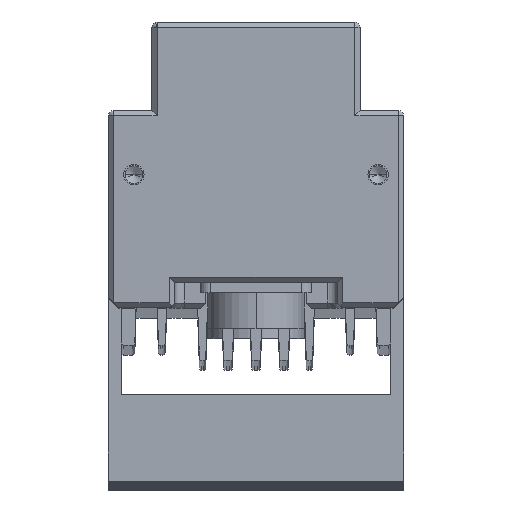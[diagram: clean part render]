
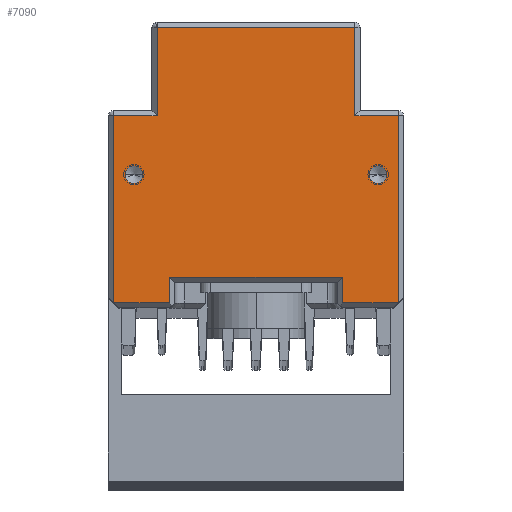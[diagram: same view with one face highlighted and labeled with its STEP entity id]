
A CAD part, top view. The second image highlights one B-rep face of the part: STEP entity #7090.
In plain terms, the highlighted planar face has unit normal (0, 0, 1).
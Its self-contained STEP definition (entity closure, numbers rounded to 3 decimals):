
#761=DIRECTION('',(1.,0.,0.));
#762=VECTOR('',#761,11.);
#763=CARTESIAN_POINT('',(-28.,-9.406,585.));
#764=LINE('',#763,#762);
#765=DIRECTION('',(0.,-1.,0.));
#766=VECTOR('',#765,36.8);
#767=CARTESIAN_POINT('',(-28.,27.394,585.));
#768=LINE('',#767,#766);
#769=DIRECTION('',(-1.,0.,0.));
#770=VECTOR('',#769,8.55);
#771=CARTESIAN_POINT('',(-19.45,27.394,585.));
#772=LINE('',#771,#770);
#773=DIRECTION('',(0.,-1.,0.));
#774=VECTOR('',#773,17.4);
#775=CARTESIAN_POINT('',(-19.45,44.794,585.));
#776=LINE('',#775,#774);
#777=DIRECTION('',(-1.,0.,0.));
#778=VECTOR('',#777,38.899);
#779=CARTESIAN_POINT('',(19.45,44.794,585.));
#780=LINE('',#779,#778);
#781=DIRECTION('',(0.,1.,0.));
#782=VECTOR('',#781,17.4);
#783=CARTESIAN_POINT('',(19.45,27.394,585.));
#784=LINE('',#783,#782);
#785=DIRECTION('',(-1.,0.,0.));
#786=VECTOR('',#785,8.55);
#787=CARTESIAN_POINT('',(28.,27.394,585.));
#788=LINE('',#787,#786);
#789=DIRECTION('',(0.,1.,0.));
#790=VECTOR('',#789,36.8);
#791=CARTESIAN_POINT('',(28.,-9.406,585.));
#792=LINE('',#791,#790);
#793=DIRECTION('',(1.,0.,0.));
#794=VECTOR('',#793,11.);
#795=CARTESIAN_POINT('',(17.,-9.406,585.));
#796=LINE('',#795,#794);
#797=DIRECTION('',(0.,-1.,0.));
#798=VECTOR('',#797,5.);
#799=CARTESIAN_POINT('',(17.,-4.406,585.));
#800=LINE('',#799,#798);
#801=DIRECTION('',(-1.,0.,0.));
#802=VECTOR('',#801,34.);
#803=CARTESIAN_POINT('',(17.,-4.406,585.));
#804=LINE('',#803,#802);
#805=DIRECTION('',(0.,1.,0.));
#806=VECTOR('',#805,5.);
#807=CARTESIAN_POINT('',(-17.,-9.406,585.));
#808=LINE('',#807,#806);
#809=CARTESIAN_POINT('',(24.,15.794,585.));
#810=DIRECTION('',(0.,0.,-1.));
#811=DIRECTION('',(1.,0.,0.));
#812=AXIS2_PLACEMENT_3D('',#809,#810,#811);
#814=CARTESIAN_POINT('',(24.,15.794,585.));
#815=DIRECTION('',(0.,0.,-1.));
#816=DIRECTION('',(-1.,0.,0.));
#817=AXIS2_PLACEMENT_3D('',#814,#815,#816);
#819=CARTESIAN_POINT('',(-24.,15.794,585.));
#820=DIRECTION('',(0.,0.,-1.));
#821=DIRECTION('',(1.,0.,0.));
#822=AXIS2_PLACEMENT_3D('',#819,#820,#821);
#824=CARTESIAN_POINT('',(-24.,15.794,585.));
#825=DIRECTION('',(0.,0.,-1.));
#826=DIRECTION('',(-1.,0.,0.));
#827=AXIS2_PLACEMENT_3D('',#824,#825,#826);
#5189=CARTESIAN_POINT('',(-28.,-9.406,585.));
#5190=CARTESIAN_POINT('',(-17.,-9.406,585.));
#5191=VERTEX_POINT('',#5189);
#5192=VERTEX_POINT('',#5190);
#5201=CARTESIAN_POINT('',(-28.,27.394,585.));
#5202=VERTEX_POINT('',#5201);
#5205=CARTESIAN_POINT('',(-19.45,27.394,585.));
#5206=VERTEX_POINT('',#5205);
#5209=CARTESIAN_POINT('',(19.45,27.394,585.));
#5210=CARTESIAN_POINT('',(19.45,44.794,585.));
#5211=VERTEX_POINT('',#5209);
#5212=VERTEX_POINT('',#5210);
#5219=CARTESIAN_POINT('',(-19.45,44.794,585.));
#5220=VERTEX_POINT('',#5219);
#5225=CARTESIAN_POINT('',(28.,-9.406,585.));
#5226=CARTESIAN_POINT('',(28.,27.394,585.));
#5227=VERTEX_POINT('',#5225);
#5228=VERTEX_POINT('',#5226);
#5239=CARTESIAN_POINT('',(17.,-9.406,585.));
#5240=VERTEX_POINT('',#5239);
#5261=CARTESIAN_POINT('',(17.,-4.406,585.));
#5262=VERTEX_POINT('',#5261);
#5263=CARTESIAN_POINT('',(-17.,-4.406,585.));
#5264=VERTEX_POINT('',#5263);
#5895=CARTESIAN_POINT('',(25.75,15.794,585.));
#5896=VERTEX_POINT('',#5895);
#5897=CARTESIAN_POINT('',(22.25,15.794,585.));
#5898=VERTEX_POINT('',#5897);
#5905=CARTESIAN_POINT('',(-22.25,15.794,585.));
#5906=VERTEX_POINT('',#5905);
#5907=CARTESIAN_POINT('',(-25.75,15.794,585.));
#5908=VERTEX_POINT('',#5907);
#7048=CARTESIAN_POINT('',(0.,0.,585.));
#7049=DIRECTION('',(0.,0.,1.));
#7050=DIRECTION('',(1.,0.,0.));
#7051=AXIS2_PLACEMENT_3D('',#7048,#7049,#7050);
#7052=PLANE('',#7051);
#7054=ORIENTED_EDGE('',*,*,#7053,.F.);
#7056=ORIENTED_EDGE('',*,*,#7055,.F.);
#7058=ORIENTED_EDGE('',*,*,#7057,.F.);
#7060=ORIENTED_EDGE('',*,*,#7059,.F.);
#7062=ORIENTED_EDGE('',*,*,#7061,.F.);
#7064=ORIENTED_EDGE('',*,*,#7063,.F.);
#7066=ORIENTED_EDGE('',*,*,#7065,.F.);
#7068=ORIENTED_EDGE('',*,*,#7067,.F.);
#7070=ORIENTED_EDGE('',*,*,#7069,.F.);
#7072=ORIENTED_EDGE('',*,*,#7071,.F.);
#7074=ORIENTED_EDGE('',*,*,#7073,.T.);
#7075=ORIENTED_EDGE('',*,*,#7037,.F.);
#7076=EDGE_LOOP('',(#7054,#7056,#7058,#7060,#7062,#7064,#7066,#7068,#7070,#7072,
#7074,#7075));
#7077=FACE_OUTER_BOUND('',#7076,.F.);
#7079=ORIENTED_EDGE('',*,*,#7078,.F.);
#7081=ORIENTED_EDGE('',*,*,#7080,.F.);
#7082=EDGE_LOOP('',(#7079,#7081));
#7083=FACE_BOUND('',#7082,.F.);
#7085=ORIENTED_EDGE('',*,*,#7084,.F.);
#7087=ORIENTED_EDGE('',*,*,#7086,.F.);
#7088=EDGE_LOOP('',(#7085,#7087));
#7089=FACE_BOUND('',#7088,.F.);
#813=CIRCLE('',#812,1.75);
#818=CIRCLE('',#817,1.75);
#823=CIRCLE('',#822,1.75);
#828=CIRCLE('',#827,1.75);
#7037=EDGE_CURVE('',#5192,#5264,#808,.T.);
#7053=EDGE_CURVE('',#5191,#5192,#764,.T.);
#7055=EDGE_CURVE('',#5202,#5191,#768,.T.);
#7057=EDGE_CURVE('',#5206,#5202,#772,.T.);
#7059=EDGE_CURVE('',#5220,#5206,#776,.T.);
#7061=EDGE_CURVE('',#5212,#5220,#780,.T.);
#7063=EDGE_CURVE('',#5211,#5212,#784,.T.);
#7065=EDGE_CURVE('',#5228,#5211,#788,.T.);
#7067=EDGE_CURVE('',#5227,#5228,#792,.T.);
#7069=EDGE_CURVE('',#5240,#5227,#796,.T.);
#7071=EDGE_CURVE('',#5262,#5240,#800,.T.);
#7073=EDGE_CURVE('',#5262,#5264,#804,.T.);
#7078=EDGE_CURVE('',#5896,#5898,#813,.T.);
#7080=EDGE_CURVE('',#5898,#5896,#818,.T.);
#7084=EDGE_CURVE('',#5906,#5908,#823,.T.);
#7086=EDGE_CURVE('',#5908,#5906,#828,.T.);
#7090=ADVANCED_FACE('',(#7077,#7083,#7089),#7052,.T.);
